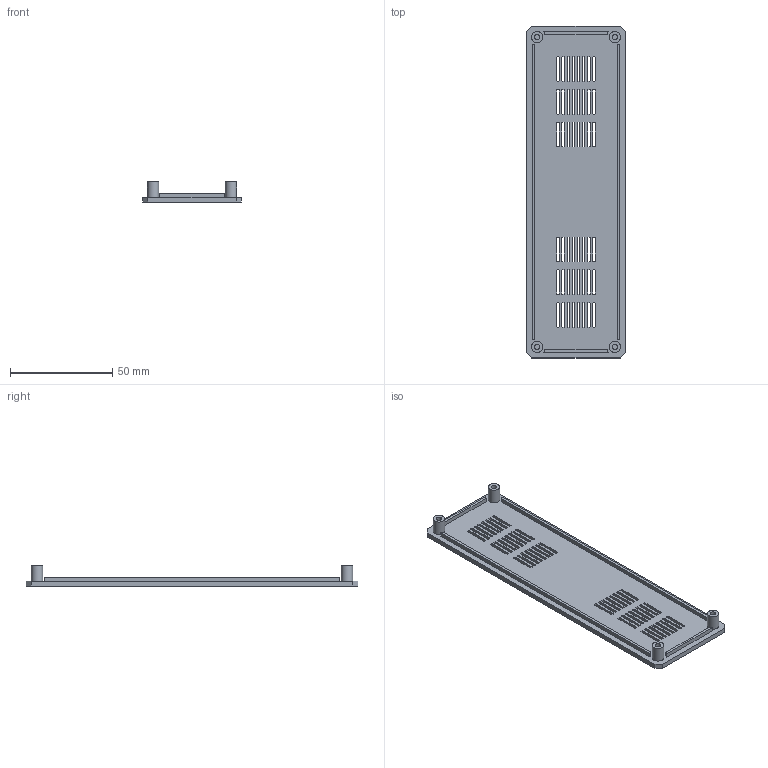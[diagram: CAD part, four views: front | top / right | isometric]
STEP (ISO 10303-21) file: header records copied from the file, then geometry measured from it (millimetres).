
FILE_DESCRIPTION(('Open CASCADE Model'),'2;1');
FILE_NAME('Open CASCADE Shape Model','2026-09-07T23:15:24',('Author'),( 'Open CASCADE'),'Open CASCADE STEP processor 7.9','build123d', 'Unknown');
FILE_SCHEMA(('AUTOMOTIVE_DESIGN { 1 0 10303 214 1 1 1 1 }'));
Length unit declared in the file: millimetre
Products named in the file (2): =>[0:1:1:2]; COMPOUND
Assembly tree (1 placements, depth 2):
  =>[0:1:1:2]
    COMPOUND
Bounding box: 48 x 162 x 9.9 mm (x, y, z)
Volume: 17860.9 mm3; surface area: 20756.3 mm2
Topology: 1 solids, 1 shells, 568 faces, 1785 edges, 1190 vertices
Faces by surface type: plane 528, extrusion 24, cylinder 16
Full cylindrical faces by diameter (mm): 2.6 x4, 5.6 x4
Entity records: 41976 total; most frequent: CARTESIAN_POINT 9849, DIRECTION 4711, ORIENTED_EDGE 3570, PCURVE 3570, DEFINITIONAL_REPRESENTATION 3570, VECTOR 3523, LINE 3499, B_SPLINE_CURVE_WITH_KNOTS 1816
